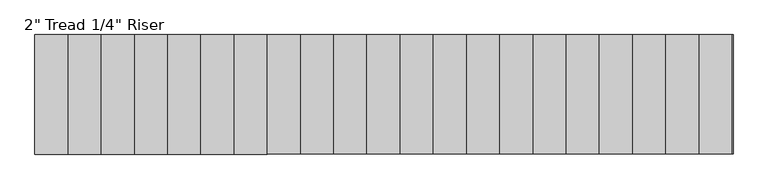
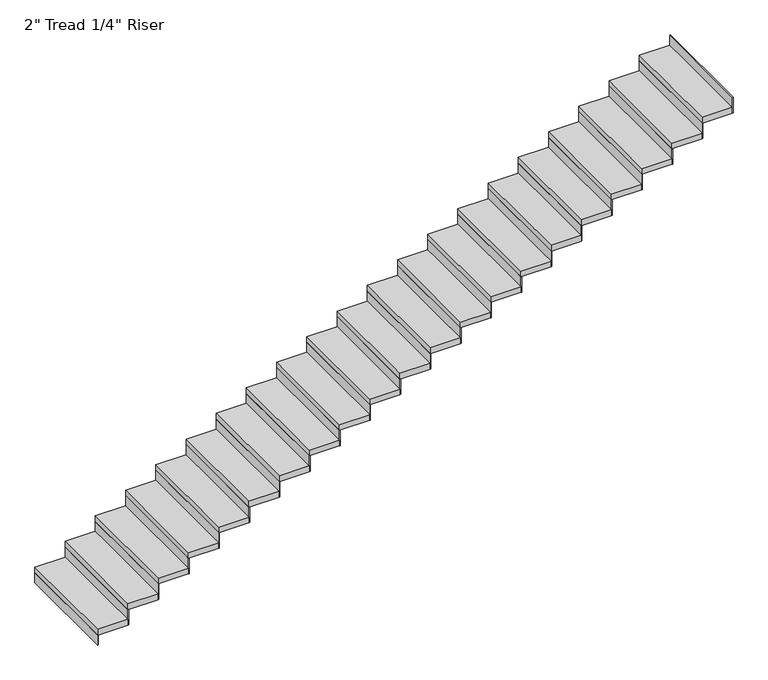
"""IFC4 building model written with IfcOpenShell, lengths in millimetres: stair flight geometry."""

from ifc_helpers import new_model, si_unit, frame, origin, origin_with_axes, place, context, project, spatial, polyline, outline, extrude, source, transform, mapped, element, save


def stair_flight_480f66c3(model_context):
    return source(origin(), model_context, "Body", "SweptSolid", [
        extrude(outline(polyline([(60758.6286682, -1704.035031), (60752.2786682, -1704.035031), (60752.2786682, -789.635031), (60758.6286682, -789.635031), (60758.6286682, -1704.035031)])), origin_with_axes(), (0.0, 0.0, 1.0), 87.7454545),
        extrude(outline(polyline([(61006.2786682, -789.635031), (61006.2786682, -1704.035031), (60752.2786682, -1704.035031), (60752.2786682, -789.635031), (61006.2786682, -789.635031)])), frame((0.0, 0.0, 87.7454545), z_axis=(0.0, 0.0, 1.0), x_axis=(1.0, 0.0, 0.0)), (0.0, 0.0, 1.0), 50.8),
        extrude(outline(polyline([(61012.6286682, -1704.035031), (61006.2786682, -1704.035031), (61006.2786682, -789.635031), (61012.6286682, -789.635031), (61012.6286682, -1704.035031)])), frame((0.0, 0.0, 87.7454545), z_axis=(0.0, 0.0, 1.0), x_axis=(1.0, 0.0, 0.0)), (0.0, 0.0, 1.0), 138.5454545),
        extrude(outline(polyline([(61260.2786682, -789.635031), (61260.2786682, -1704.035031), (61006.2786682, -1704.035031), (61006.2786682, -789.635031), (61260.2786682, -789.635031)])), frame((0.0, 0.0, 226.2909091), z_axis=(0.0, 0.0, 1.0), x_axis=(1.0, 0.0, 0.0)), (0.0, 0.0, 1.0), 50.8),
        extrude(outline(polyline([(61266.6286682, -1704.035031), (61260.2786682, -1704.035031), (61260.2786682, -789.635031), (61266.6286682, -789.635031), (61266.6286682, -1704.035031)])), frame((0.0, 0.0, 226.2909091), z_axis=(0.0, 0.0, 1.0), x_axis=(1.0, 0.0, 0.0)), (0.0, 0.0, 1.0), 138.5454545),
        extrude(outline(polyline([(61514.2786682, -789.635031), (61514.2786682, -1704.035031), (61260.2786682, -1704.035031), (61260.2786682, -789.635031), (61514.2786682, -789.635031)])), frame((0.0, 0.0, 364.8363636), z_axis=(0.0, 0.0, 1.0), x_axis=(1.0, 0.0, 0.0)), (0.0, 0.0, 1.0), 50.8),
        extrude(outline(polyline([(61520.6286682, -1704.035031), (61514.2786682, -1704.035031), (61514.2786682, -789.635031), (61520.6286682, -789.635031), (61520.6286682, -1704.035031)])), frame((0.0, 0.0, 364.8363636), z_axis=(0.0, 0.0, 1.0), x_axis=(1.0, 0.0, 0.0)), (0.0, 0.0, 1.0), 138.5454545),
        extrude(outline(polyline([(61768.2786682, -789.635031), (61768.2786682, -1704.035031), (61514.2786682, -1704.035031), (61514.2786682, -789.635031), (61768.2786682, -789.635031)])), frame((0.0, 0.0, 503.3818182), z_axis=(0.0, 0.0, 1.0), x_axis=(1.0, 0.0, 0.0)), (0.0, 0.0, 1.0), 50.8),
        extrude(outline(polyline([(61774.6286682, -1704.035031), (61768.2786682, -1704.035031), (61768.2786682, -789.635031), (61774.6286682, -789.635031), (61774.6286682, -1704.035031)])), frame((0.0, 0.0, 503.3818182), z_axis=(0.0, 0.0, 1.0), x_axis=(1.0, 0.0, 0.0)), (0.0, 0.0, 1.0), 138.5454545),
        extrude(outline(polyline([(62022.2786682, -789.635031), (62022.2786682, -1704.035031), (61768.2786682, -1704.035031), (61768.2786682, -789.635031), (62022.2786682, -789.635031)])), frame((0.0, 0.0, 641.9272727), z_axis=(0.0, 0.0, 1.0), x_axis=(1.0, 0.0, 0.0)), (0.0, 0.0, 1.0), 50.8),
        extrude(outline(polyline([(62028.6286682, -1704.035031), (62022.2786682, -1704.035031), (62022.2786682, -789.635031), (62028.6286682, -789.635031), (62028.6286682, -1704.035031)])), frame((0.0, 0.0, 641.9272727), z_axis=(0.0, 0.0, 1.0), x_axis=(1.0, 0.0, 0.0)), (0.0, 0.0, 1.0), 138.5454545),
        extrude(outline(polyline([(62276.2786682, -789.635031), (62276.2786682, -1704.035031), (62022.2786682, -1704.035031), (62022.2786682, -789.635031), (62276.2786682, -789.635031)])), frame((0.0, 0.0, 780.4727273), z_axis=(0.0, 0.0, 1.0), x_axis=(1.0, 0.0, 0.0)), (0.0, 0.0, 1.0), 50.8),
        extrude(outline(polyline([(62282.6286682, -1704.035031), (62276.2786682, -1704.035031), (62276.2786682, -789.635031), (62282.6286682, -789.635031), (62282.6286682, -1704.035031)])), frame((0.0, 0.0, 780.4727273), z_axis=(0.0, 0.0, 1.0), x_axis=(1.0, 0.0, 0.0)), (0.0, 0.0, 1.0), 138.5454545),
        extrude(outline(polyline([(62530.2786682, -789.635031), (62530.2786682, -1704.035031), (62276.2786682, -1704.035031), (62276.2786682, -789.635031), (62530.2786682, -789.635031)])), frame((0.0, 0.0, 919.0181818), z_axis=(0.0, 0.0, 1.0), x_axis=(1.0, 0.0, 0.0)), (0.0, 0.0, 1.0), 50.8),
        extrude(outline(polyline([(62536.6286682, -1704.035031), (62530.2786682, -1704.035031), (62530.2786682, -789.635031), (62536.6286682, -789.635031), (62536.6286682, -1704.035031)])), frame((0.0, 0.0, 919.0181818), z_axis=(0.0, 0.0, 1.0), x_axis=(1.0, 0.0, 0.0)), (0.0, 0.0, 1.0), 138.5454545),
        extrude(outline(polyline([(62784.2786682, -789.635031), (62784.2786682, -1704.035031), (62530.2786682, -1704.035031), (62530.2786682, -789.635031), (62784.2786682, -789.635031)])), frame((0.0, 0.0, 1057.5636364), z_axis=(0.0, 0.0, 1.0), x_axis=(1.0, 0.0, 0.0)), (0.0, 0.0, 1.0), 50.8),
        extrude(outline(polyline([(62790.6286682, -1704.035031), (62784.2786682, -1704.035031), (62784.2786682, -789.635031), (62790.6286682, -789.635031), (62790.6286682, -1704.035031)])), frame((0.0, 0.0, 1057.5636364), z_axis=(0.0, 0.0, 1.0), x_axis=(1.0, 0.0, 0.0)), (0.0, 0.0, 1.0), 138.5454545),
        extrude(outline(polyline([(63038.2786682, -789.635031), (63038.2786682, -1704.035031), (62784.2786682, -1704.035031), (62784.2786682, -789.635031), (63038.2786682, -789.635031)])), frame((0.0, 0.0, 1196.1090909), z_axis=(0.0, 0.0, 1.0), x_axis=(1.0, 0.0, 0.0)), (0.0, 0.0, 1.0), 50.8),
        extrude(outline(polyline([(63044.6286682, -1704.035031), (63038.2786682, -1704.035031), (63038.2786682, -789.635031), (63044.6286682, -789.635031), (63044.6286682, -1704.035031)])), frame((0.0, 0.0, 1196.1090909), z_axis=(0.0, 0.0, 1.0), x_axis=(1.0, 0.0, 0.0)), (0.0, 0.0, 1.0), 138.5454545),
        extrude(outline(polyline([(63292.2786682, -789.635031), (63292.2786682, -1704.035031), (63038.2786682, -1704.035031), (63038.2786682, -789.635031), (63292.2786682, -789.635031)])), frame((0.0, 0.0, 1334.6545455), z_axis=(0.0, 0.0, 1.0), x_axis=(1.0, 0.0, 0.0)), (0.0, 0.0, 1.0), 50.8),
        extrude(outline(polyline([(63298.6286682, -1704.035031), (63292.2786682, -1704.035031), (63292.2786682, -789.635031), (63298.6286682, -789.635031), (63298.6286682, -1704.035031)])), frame((0.0, 0.0, 1334.6545455), z_axis=(0.0, 0.0, 1.0), x_axis=(1.0, 0.0, 0.0)), (0.0, 0.0, 1.0), 138.5454545),
        extrude(outline(polyline([(63546.2786682, -789.635031), (63546.2786682, -1704.035031), (63292.2786682, -1704.035031), (63292.2786682, -789.635031), (63546.2786682, -789.635031)])), frame((0.0, 0.0, 1473.2), z_axis=(0.0, 0.0, 1.0), x_axis=(1.0, 0.0, 0.0)), (0.0, 0.0, 1.0), 50.8),
        extrude(outline(polyline([(63552.6286682, -1704.035031), (63546.2786682, -1704.035031), (63546.2786682, -789.635031), (63552.6286682, -789.635031), (63552.6286682, -1704.035031)])), frame((0.0, 0.0, 1473.2), z_axis=(0.0, 0.0, 1.0), x_axis=(1.0, 0.0, 0.0)), (0.0, 0.0, 1.0), 138.5454545),
        extrude(outline(polyline([(63800.2786682, -789.635031), (63800.2786682, -1704.035031), (63546.2786682, -1704.035031), (63546.2786682, -789.635031), (63800.2786682, -789.635031)])), frame((0.0, 0.0, 1611.7454545), z_axis=(0.0, 0.0, 1.0), x_axis=(1.0, 0.0, 0.0)), (0.0, 0.0, 1.0), 50.8),
        extrude(outline(polyline([(63806.6286682, -1704.035031), (63800.2786682, -1704.035031), (63800.2786682, -789.635031), (63806.6286682, -789.635031), (63806.6286682, -1704.035031)])), frame((0.0, 0.0, 1611.7454545), z_axis=(0.0, 0.0, 1.0), x_axis=(1.0, 0.0, 0.0)), (0.0, 0.0, 1.0), 138.5454545),
        extrude(outline(polyline([(64054.2786682, -789.635031), (64054.2786682, -1704.035031), (63800.2786682, -1704.035031), (63800.2786682, -789.635031), (64054.2786682, -789.635031)])), frame((0.0, 0.0, 1750.2909091), z_axis=(0.0, 0.0, 1.0), x_axis=(1.0, 0.0, 0.0)), (0.0, 0.0, 1.0), 50.8),
        extrude(outline(polyline([(64060.6286682, -1704.035031), (64054.2786682, -1704.035031), (64054.2786682, -789.635031), (64060.6286682, -789.635031), (64060.6286682, -1704.035031)])), frame((0.0, 0.0, 1750.2909091), z_axis=(0.0, 0.0, 1.0), x_axis=(1.0, 0.0, 0.0)), (0.0, 0.0, 1.0), 138.5454545),
        extrude(outline(polyline([(64308.2786682, -789.635031), (64308.2786682, -1704.035031), (64054.2786682, -1704.035031), (64054.2786682, -789.635031), (64308.2786682, -789.635031)])), frame((0.0, 0.0, 1888.8363636), z_axis=(0.0, 0.0, 1.0), x_axis=(1.0, 0.0, 0.0)), (0.0, 0.0, 1.0), 50.8),
        extrude(outline(polyline([(64314.6286682, -1704.035031), (64308.2786682, -1704.035031), (64308.2786682, -789.635031), (64314.6286682, -789.635031), (64314.6286682, -1704.035031)])), frame((0.0, 0.0, 1888.8363636), z_axis=(0.0, 0.0, 1.0), x_axis=(1.0, 0.0, 0.0)), (0.0, 0.0, 1.0), 138.5454545),
        extrude(outline(polyline([(64562.2786682, -789.635031), (64562.2786682, -1704.035031), (64308.2786682, -1704.035031), (64308.2786682, -789.635031), (64562.2786682, -789.635031)])), frame((0.0, 0.0, 2027.3818182), z_axis=(0.0, 0.0, 1.0), x_axis=(1.0, 0.0, 0.0)), (0.0, 0.0, 1.0), 50.8),
        extrude(outline(polyline([(64568.6286682, -1704.035031), (64562.2786682, -1704.035031), (64562.2786682, -789.635031), (64568.6286682, -789.635031), (64568.6286682, -1704.035031)])), frame((0.0, 0.0, 2027.3818182), z_axis=(0.0, 0.0, 1.0), x_axis=(1.0, 0.0, 0.0)), (0.0, 0.0, 1.0), 138.5454545),
        extrude(outline(polyline([(64816.2786682, -789.635031), (64816.2786682, -1704.035031), (64562.2786682, -1704.035031), (64562.2786682, -789.635031), (64816.2786682, -789.635031)])), frame((0.0, 0.0, 2165.9272727), z_axis=(0.0, 0.0, 1.0), x_axis=(1.0, 0.0, 0.0)), (0.0, 0.0, 1.0), 50.8),
        extrude(outline(polyline([(64822.6286682, -1704.035031), (64816.2786682, -1704.035031), (64816.2786682, -789.635031), (64822.6286682, -789.635031), (64822.6286682, -1704.035031)])), frame((0.0, 0.0, 2165.9272727), z_axis=(0.0, 0.0, 1.0), x_axis=(1.0, 0.0, 0.0)), (0.0, 0.0, 1.0), 138.5454545),
        extrude(outline(polyline([(65070.2786682, -789.635031), (65070.2786682, -1704.035031), (64816.2786682, -1704.035031), (64816.2786682, -789.635031), (65070.2786682, -789.635031)])), frame((0.0, 0.0, 2304.4727273), z_axis=(0.0, 0.0, 1.0), x_axis=(1.0, 0.0, 0.0)), (0.0, 0.0, 1.0), 50.8),
        extrude(outline(polyline([(65076.6286682, -1704.035031), (65070.2786682, -1704.035031), (65070.2786682, -789.635031), (65076.6286682, -789.635031), (65076.6286682, -1704.035031)])), frame((0.0, 0.0, 2304.4727273), z_axis=(0.0, 0.0, 1.0), x_axis=(1.0, 0.0, 0.0)), (0.0, 0.0, 1.0), 138.5454545),
        extrude(outline(polyline([(65324.2786682, -789.635031), (65324.2786682, -1704.035031), (65070.2786682, -1704.035031), (65070.2786682, -789.635031), (65324.2786682, -789.635031)])), frame((0.0, 0.0, 2443.0181818), z_axis=(0.0, 0.0, 1.0), x_axis=(1.0, 0.0, 0.0)), (0.0, 0.0, 1.0), 50.8),
        extrude(outline(polyline([(65330.6286682, -1704.035031), (65324.2786682, -1704.035031), (65324.2786682, -789.635031), (65330.6286682, -789.635031), (65330.6286682, -1704.035031)])), frame((0.0, 0.0, 2443.0181818), z_axis=(0.0, 0.0, 1.0), x_axis=(1.0, 0.0, 0.0)), (0.0, 0.0, 1.0), 138.5454545),
        extrude(outline(polyline([(65578.2786682, -789.635031), (65578.2786682, -1704.035031), (65324.2786682, -1704.035031), (65324.2786682, -789.635031), (65578.2786682, -789.635031)])), frame((0.0, 0.0, 2581.5636364), z_axis=(0.0, 0.0, 1.0), x_axis=(1.0, 0.0, 0.0)), (0.0, 0.0, 1.0), 50.8),
        extrude(outline(polyline([(65584.6286682, -1704.035031), (65578.2786682, -1704.035031), (65578.2786682, -789.635031), (65584.6286682, -789.635031), (65584.6286682, -1704.035031)])), frame((0.0, 0.0, 2581.5636364), z_axis=(0.0, 0.0, 1.0), x_axis=(1.0, 0.0, 0.0)), (0.0, 0.0, 1.0), 138.5454545),
        extrude(outline(polyline([(65832.2786682, -789.635031), (65832.2786682, -1704.035031), (65578.2786682, -1704.035031), (65578.2786682, -789.635031), (65832.2786682, -789.635031)])), frame((0.0, 0.0, 2720.1090909), z_axis=(0.0, 0.0, 1.0), x_axis=(1.0, 0.0, 0.0)), (0.0, 0.0, 1.0), 50.8),
        extrude(outline(polyline([(65838.6286682, -1704.035031), (65832.2786682, -1704.035031), (65832.2786682, -789.635031), (65838.6286682, -789.635031), (65838.6286682, -1704.035031)])), frame((0.0, 0.0, 2720.1090909), z_axis=(0.0, 0.0, 1.0), x_axis=(1.0, 0.0, 0.0)), (0.0, 0.0, 1.0), 138.5454545),
        extrude(outline(polyline([(66092.6286682, -1704.035031), (66086.2786682, -1704.035031), (66086.2786682, -789.635031), (66092.6286682, -789.635031), (66092.6286682, -1704.035031)])), frame((0.0, 0.0, 2858.6545455), z_axis=(0.0, 0.0, 1.0), x_axis=(1.0, 0.0, 0.0)), (0.0, 0.0, 1.0), 138.5454545),
        extrude(outline(polyline([(66086.2786682, -789.635031), (66086.2786682, -1704.035031), (65832.2786682, -1704.035031), (65832.2786682, -789.635031), (66086.2786682, -789.635031)])), frame((0.0, 0.0, 2858.6545455), z_axis=(0.0, 0.0, 1.0), x_axis=(1.0, 0.0, 0.0)), (0.0, 0.0, 1.0), 50.8),
    ])


if __name__ == "__main__":
    model = new_model("IFC4")
    model_context = context("Model", 3, world=origin())
    ifc_project = project(units=[si_unit("LENGTHUNIT", "METRE", prefix="MILLI")], contexts=[model_context])
    site = spatial("IfcSite", under=ifc_project)
    building = spatial("IfcBuilding", under=site)
    placement = place(None, origin())
    stair_flight_shape = stair_flight_480f66c3(model_context)
    element("IfcStairFlight", 1, ObjectType="2\" Tread 1/4\" Riser", at=placement, inside=building, context=model_context, shape_type="MappedRepresentation", body=[
        mapped(stair_flight_shape, transform((0.0, 0.0, 0.0), x_axis=(1.0, 0.0, 0.0), y_axis=(0.0, 1.0, 0.0), z_axis=(0.0, 0.0, 1.0))),
    ])
    save(model, "model.ifc")
